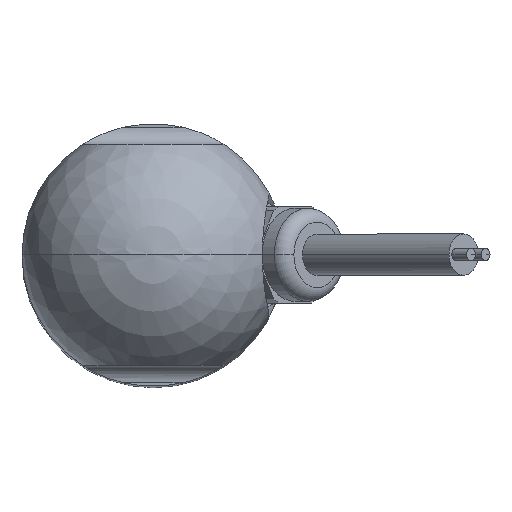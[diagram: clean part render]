
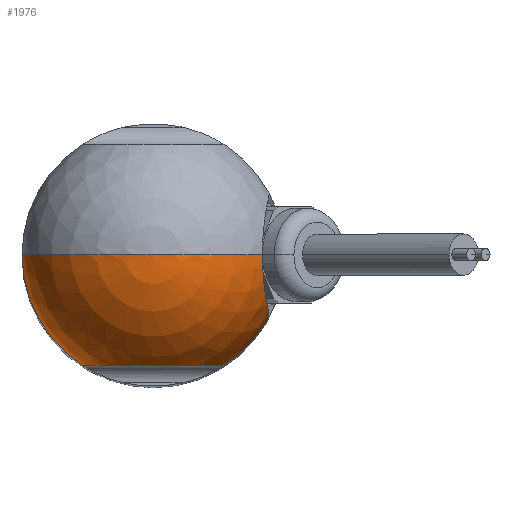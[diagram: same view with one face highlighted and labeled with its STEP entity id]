
A CAD part, top view. The second image highlights one B-rep face of the part: STEP entity #1976.
In plain terms, the highlighted spherical face has radius 19 mm.
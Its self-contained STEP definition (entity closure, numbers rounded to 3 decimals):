
#504=CARTESIAN_POINT('',(16.756,-8.957,
0.));
#505=CARTESIAN_POINT('',(16.778,-8.916,0.616));
#506=CARTESIAN_POINT('',(16.787,-8.773,1.821));
#507=CARTESIAN_POINT('',(16.718,-8.363,3.544));
#508=CARTESIAN_POINT('',(16.596,-7.774,5.1));
#509=CARTESIAN_POINT('',(16.448,-7.029,6.464));
#510=CARTESIAN_POINT('',(16.302,-6.205,7.569));
#511=CARTESIAN_POINT('',(16.174,-5.365,8.429));
#512=CARTESIAN_POINT('',(16.061,-4.484,9.132));
#513=CARTESIAN_POINT('',(15.957,-3.477,9.735));
#514=CARTESIAN_POINT('',(15.874,-2.366,10.193));
#515=CARTESIAN_POINT('',(15.821,-1.182,10.477));
#516=CARTESIAN_POINT('',(15.81,-0.394,10.538));
#517=CARTESIAN_POINT('',(15.81,0.,10.538));
#519=CARTESIAN_POINT('',(0.,-16.,0.));
#520=DIRECTION('',(0.,1.,0.));
#521=DIRECTION('',(-1.,0.,0.));
#522=AXIS2_PLACEMENT_3D('',#519,#520,#521);
#524=CARTESIAN_POINT('',(0.,0.,0.));
#525=DIRECTION('',(0.,-1.,0.));
#526=DIRECTION('',(0.,0.,1.));
#527=AXIS2_PLACEMENT_3D('',#524,#525,#526);
#529=CARTESIAN_POINT('',(0.,0.,0.));
#530=DIRECTION('',(0.,1.,0.));
#531=DIRECTION('',(0.,0.,1.));
#532=AXIS2_PLACEMENT_3D('',#529,#530,#531);
#541=CARTESIAN_POINT('',(16.756,-8.957,
0.));
#561=CARTESIAN_POINT('',(0.,0.,0.));
#562=DIRECTION('',(0.,0.,-1.));
#563=DIRECTION('',(-0.539,-0.842,0.));
#564=AXIS2_PLACEMENT_3D('',#561,#562,#563);
#579=CARTESIAN_POINT('',(0.,0.,0.));
#580=DIRECTION('',(0.,0.,-1.));
#581=DIRECTION('',(0.882,-0.471,0.));
#582=AXIS2_PLACEMENT_3D('',#579,#580,#581);
#958=CARTESIAN_POINT('',(15.81,0.,10.538));
#1061=CARTESIAN_POINT('',(0.,0.,19.));
#1062=CARTESIAN_POINT('',(-19.,0.,0.));
#1063=VERTEX_POINT('',#1061);
#1064=VERTEX_POINT('',#1062);
#1097=CARTESIAN_POINT('',(-10.247,-16.,0.));
#1098=CARTESIAN_POINT('',(10.247,-16.,0.));
#1099=VERTEX_POINT('',#1097);
#1100=VERTEX_POINT('',#1098);
#1168=VERTEX_POINT('',#958);
#1170=VERTEX_POINT('',#541);
#1958=CARTESIAN_POINT('',(0.,0.,0.));
#1959=DIRECTION('',(0.,0.,1.));
#1960=DIRECTION('',(-1.,0.,0.));
#1961=AXIS2_PLACEMENT_3D('',#1958,#1959,#1960);
#1962=SPHERICAL_SURFACE('',#1961,19.);
#1963=ORIENTED_EDGE('',*,*,#1947,.F.);
#1965=ORIENTED_EDGE('',*,*,#1964,.T.);
#1967=ORIENTED_EDGE('',*,*,#1966,.F.);
#1969=ORIENTED_EDGE('',*,*,#1968,.T.);
#1971=ORIENTED_EDGE('',*,*,#1970,.F.);
#1973=ORIENTED_EDGE('',*,*,#1972,.T.);
#1974=EDGE_LOOP('',(#1963,#1965,#1967,#1969,#1971,#1973));
#1975=FACE_OUTER_BOUND('',#1974,.F.);
#518=B_SPLINE_CURVE_WITH_KNOTS('',3,(#504,#505,#506,#507,#508,#509,#510,#511,
#512,#513,#514,#515,#516,#517),.UNSPECIFIED.,.F.,.F.,(4,1,1,1,1,1,1,1,1,1,1,4),(
0.,0.091,0.182,0.273,0.364,
0.455,0.545,0.636,0.727,
0.818,0.909,1.),.UNSPECIFIED.);
#523=CIRCLE('',#522,10.247);
#528=CIRCLE('',#527,19.);
#533=CIRCLE('',#532,19.);
#565=CIRCLE('',#564,19.);
#583=CIRCLE('',#582,19.);
#1947=EDGE_CURVE('',#1170,#1168,#518,.T.);
#1964=EDGE_CURVE('',#1170,#1100,#583,.T.);
#1966=EDGE_CURVE('',#1099,#1100,#523,.T.);
#1968=EDGE_CURVE('',#1099,#1064,#565,.T.);
#1970=EDGE_CURVE('',#1063,#1064,#528,.T.);
#1972=EDGE_CURVE('',#1063,#1168,#533,.T.);
#1976=ADVANCED_FACE('',(#1975),#1962,.T.);
